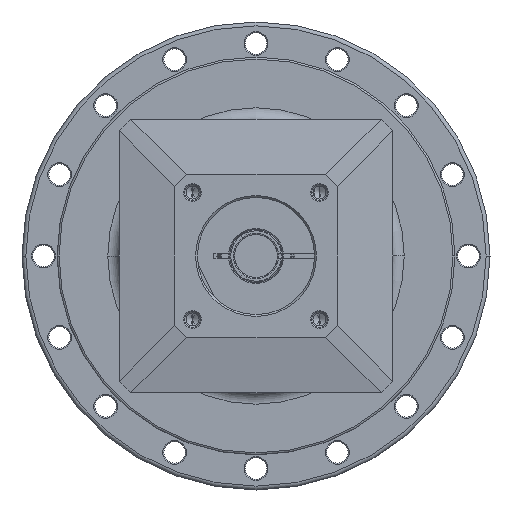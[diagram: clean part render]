
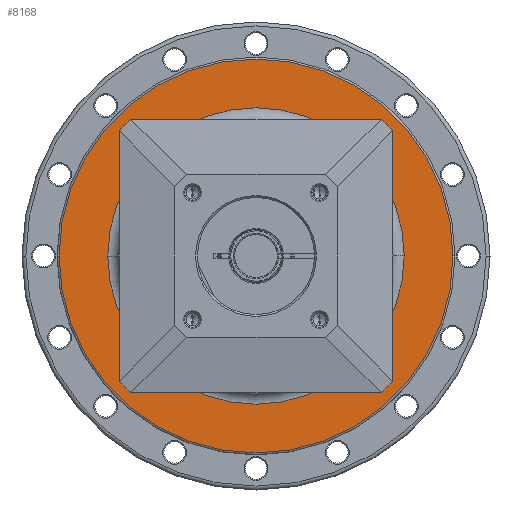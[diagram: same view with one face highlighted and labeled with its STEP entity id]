
A CAD part, left-side view. The second image highlights one B-rep face of the part: STEP entity #8168.
In plain terms, the highlighted planar face has unit normal (-1, 0, 0) as drawn and (1, 0, 0) by its records, which use the part's own axes.
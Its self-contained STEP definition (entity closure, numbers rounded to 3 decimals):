
#7721=CARTESIAN_POINT('',(-33.5,0.,0.));
#7722=DIRECTION('',(-1.,0.,0.));
#7723=DIRECTION('',(0.,-1.,0.));
#7724=AXIS2_PLACEMENT_3D('',#7721,#7722,#7723);
#7726=CARTESIAN_POINT('',(-33.5,0.,0.));
#7727=DIRECTION('',(-1.,0.,0.));
#7728=DIRECTION('',(0.,1.,0.));
#7729=AXIS2_PLACEMENT_3D('',#7726,#7727,#7728);
#7731=CARTESIAN_POINT('',(-33.5,0.,0.));
#7732=DIRECTION('',(-1.,0.,0.));
#7733=DIRECTION('',(0.,-1.,0.));
#7734=AXIS2_PLACEMENT_3D('',#7731,#7732,#7733);
#7736=CARTESIAN_POINT('',(-33.5,0.,0.));
#7737=DIRECTION('',(-1.,0.,0.));
#7738=DIRECTION('',(0.,1.,0.));
#7739=AXIS2_PLACEMENT_3D('',#7736,#7737,#7738);
#7945=CARTESIAN_POINT('',(-33.5,-50.5,0.));
#7946=CARTESIAN_POINT('',(-33.5,50.5,0.));
#7947=VERTEX_POINT('',#7945);
#7948=VERTEX_POINT('',#7946);
#7965=CARTESIAN_POINT('',(-33.5,-38.,0.));
#7966=CARTESIAN_POINT('',(-33.5,38.,0.));
#7967=VERTEX_POINT('',#7965);
#7968=VERTEX_POINT('',#7966);
#8153=CARTESIAN_POINT('',(-33.5,0.,0.));
#8154=DIRECTION('',(1.,0.,0.));
#8155=DIRECTION('',(0.,-1.,0.));
#8156=AXIS2_PLACEMENT_3D('',#8153,#8154,#8155);
#8157=PLANE('',#8156);
#8159=ORIENTED_EDGE('',*,*,#8158,.T.);
#8161=ORIENTED_EDGE('',*,*,#8160,.T.);
#8162=EDGE_LOOP('',(#8159,#8161));
#8163=FACE_OUTER_BOUND('',#8162,.F.);
#8164=ORIENTED_EDGE('',*,*,#8147,.F.);
#8165=ORIENTED_EDGE('',*,*,#8133,.F.);
#8166=EDGE_LOOP('',(#8164,#8165));
#8167=FACE_BOUND('',#8166,.F.);
#8168=ADVANCED_FACE('',(#8163,#8167),#8157,.T.);
#7725=CIRCLE('',#7724,38.);
#7730=CIRCLE('',#7729,38.);
#7735=CIRCLE('',#7734,50.5);
#7740=CIRCLE('',#7739,50.5);
#8133=EDGE_CURVE('',#7968,#7967,#7730,.T.);
#8147=EDGE_CURVE('',#7967,#7968,#7725,.T.);
#8158=EDGE_CURVE('',#7947,#7948,#7735,.T.);
#8160=EDGE_CURVE('',#7948,#7947,#7740,.T.);
